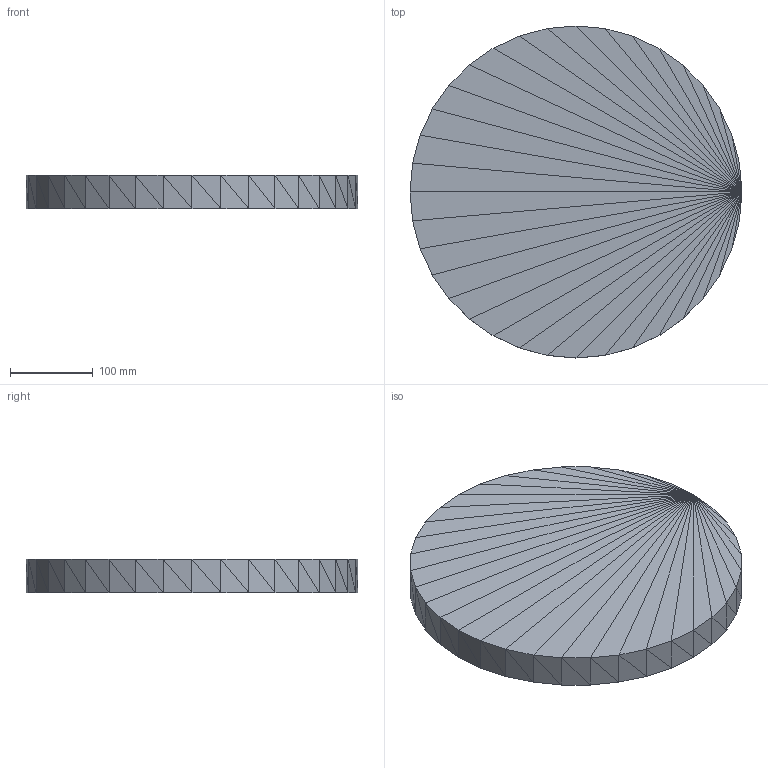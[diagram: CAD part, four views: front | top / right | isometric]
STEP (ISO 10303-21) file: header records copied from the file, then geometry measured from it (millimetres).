
FILE_DESCRIPTION(('ISINAC STEP AP214'),'2;1');
FILE_NAME('ISINAC_CIR.400_40mm_ADHESIVO','2026-05-03T10:49:19',('ISINAC'),('www.isinac.com'),'ISINAC BIM Generator 1.0','','');
FILE_SCHEMA(('AUTOMOTIVE_DESIGN'));
Length unit declared in the file: millimetre
Products named in the file (1): ISINAC_CIR.400_40mm_ADHESIVO
Bounding box: 400 x 400 x 40 mm (x, y, z)
Surface area: 300255.1 mm2 (no closed solid volume)
Topology: 0 solids, 140 shells, 140 faces, 420 edges, 420 vertices
Faces by surface type: plane 140
Entity records: 1553 total; most frequent: CARTESIAN_POINT 560, DIRECTION 280, POLY_LOOP 140, FACE_OUTER_BOUND 140, AXIS2_PLACEMENT_3D 140, PLANE 140, FACE_SURFACE 140, CLOSED_SHELL 1
